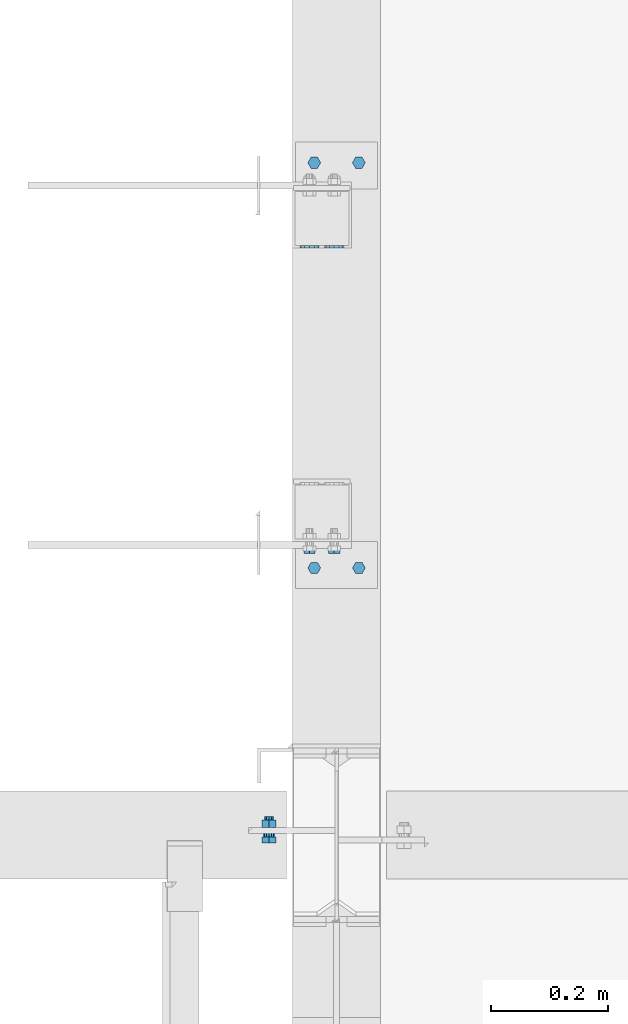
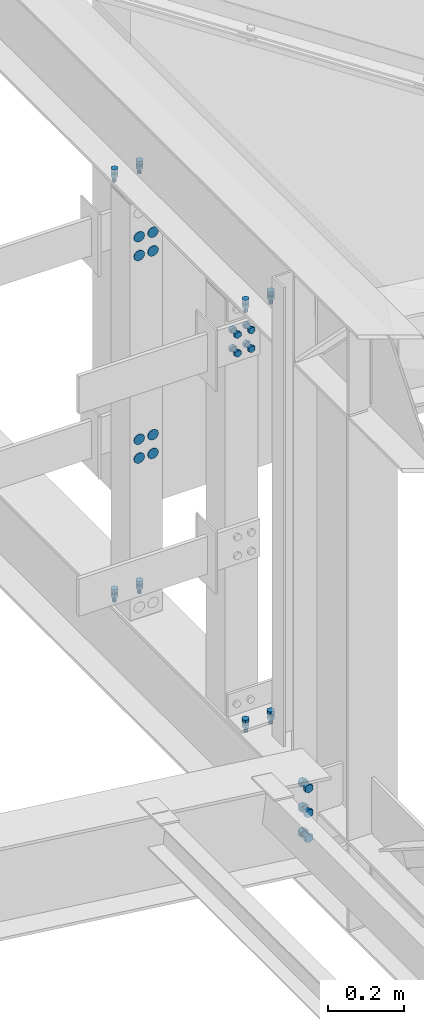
# One storey, part 372 of 3134: 8 mechanical fasteners, 7 elements without a shape of their own.
"""IFC2X3 building model written with IfcOpenShell, lengths in millimetres."""

from ifc_helpers import new_model, si_unit, frame, origin_with_axes, place, context, subcontext, project, spatial, faceted_brep, source, transform, mapped, material, type_object, element, aggregate, save


model = new_model("IFC2X3")

# Units and contexts
model_context = context("Model", 3, precision=1e-05, world=origin_with_axes())
body_context = subcontext(model_context, "Body", "Model", "MODEL_VIEW")
ifc_project = project(units=[si_unit("LENGTHUNIT", "METRE", prefix="MILLI"), si_unit("AREAUNIT", "SQUARE_METRE"), si_unit("VOLUMEUNIT", "CUBIC_METRE"), si_unit("MASSUNIT", "GRAM", prefix="KILO"), si_unit("TIMEUNIT", "SECOND"), si_unit("PLANEANGLEUNIT", "RADIAN"), si_unit("SOLIDANGLEUNIT", "STERADIAN"), si_unit("THERMODYNAMICTEMPERATUREUNIT", "DEGREE_CELSIUS"), si_unit("LUMINOUSINTENSITYUNIT", "LUMEN")], contexts=[model_context])

# Site, building, storey
site_placement = place(None, origin_with_axes())
site = spatial("IfcSite", under=ifc_project, at=site_placement, CompositionType="ELEMENT")
building_placement = place(site_placement, origin_with_axes())
building = spatial("IfcBuilding", under=site, at=building_placement, Name="Undefined", CompositionType="ELEMENT")
storey_placement = place(building_placement, origin_with_axes())
storey = spatial("IfcBuildingStorey", under=building, at=storey_placement, Name="Undefined", CompositionType="ELEMENT", Elevation=0.0)

# Assembly, mechanical fastener
assembly_1_placement = place(storey_placement, origin_with_axes())
assembly_1 = element("IfcElementAssembly", 1, at=assembly_1_placement, inside=storey, AssemblyPlace="NOTDEFINED", PredefinedType="RIGID_FRAME")
ifc_material = material(Name="8.8")
mechanical_fastener_type = type_object("IfcMechanicalFastenerType", Name="Bolt assembly")
shared_shape_1 = source(origin_with_axes(), body_context, "Body", "Brep", [
    faceted_brep([(10.9696551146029, -8.0, 0.0), (5.48482755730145, -8.0, 9.5), (-5.48482755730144, -8.0, 9.5), (-10.9696551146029, -8.0, 1.34339530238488e-15), (-5.48482755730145, -8.0, -9.5), (5.48482755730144, -8.0, -9.50000000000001), (5.48482755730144, 0.0, -9.50000000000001), (-5.48482755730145, 0.0, -9.5), (-10.9696551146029, 0.0, 1.34339530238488e-15), (-5.48482755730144, 0.0, 9.5), (5.48482755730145, 0.0, 9.5), (10.9696551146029, 0.0, 0.0), (6.0, 0.0, 0.0), (5.19615242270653, 0.0, 3.00000000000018), (2.99999999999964, 0.0, 5.19615242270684), (-6.21801588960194e-13, 0.0, 6.0), (-3.00000000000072, 0.0, 5.19615242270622), (-5.19615242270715, 0.0, 2.9999999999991), (-6.0, 0.0, -1.24360317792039e-12), (-5.19615242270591, 0.0, -3.00000000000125), (-2.99999999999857, 0.0, -5.19615242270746), (1.85874342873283e-12, 0.0, -6.0), (3.00000000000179, 0.0, -5.1961524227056), (5.19615242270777, 0.0, -2.99999999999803), (5.19615242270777, 35.0, -2.99999999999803), (3.00000000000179, 35.0, -5.1961524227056), (1.85874342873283e-12, 35.0, -6.0), (-2.99999999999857, 35.0, -5.19615242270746), (-5.19615242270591, 35.0, -3.00000000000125), (-6.0, 35.0, -1.24360317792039e-12), (-5.19615242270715, 35.0, 2.9999999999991), (-3.00000000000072, 35.0, 5.19615242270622), (-6.21801588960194e-13, 35.0, 6.0), (2.99999999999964, 35.0, 5.19615242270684), (5.19615242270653, 35.0, 3.00000000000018), (6.0, 35.0, 0.0), (10.9696551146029, 8.0, 0.0), (5.48482755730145, 8.0, 9.5), (-5.48482755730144, 8.0, 9.5), (-10.9696551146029, 8.0, 1.34339530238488e-15), (-5.48482755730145, 8.0, -9.5), (5.48482755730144, 8.0, -9.50000000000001), (5.48482755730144, 18.0, -9.50000000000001), (-5.48482755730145, 18.0, -9.5), (-10.9696551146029, 18.0, 1.34339530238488e-15), (-5.48482755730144, 18.0, 9.5), (5.48482755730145, 18.0, 9.5), (10.9696551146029, 18.0, 0.0)], [[[0, 1, 2, 3, 4, 5]], [[6, 7, 8, 9, 10, 11]], [[0, 11, 10, 1]], [[1, 10, 9, 2]], [[2, 9, 8, 3]], [[3, 8, 7, 4]], [[4, 7, 6, 5]], [[5, 6, 11, 0]], [[12, 13, 14, 15, 16, 17, 18, 19, 20, 21, 22, 23]], [[24, 25, 26, 27, 28, 29, 30, 31, 32, 33, 34, 35]], [[12, 35, 34, 13]], [[13, 34, 33, 14]], [[14, 33, 32, 15]], [[15, 32, 31, 16]], [[16, 31, 30, 17]], [[17, 30, 29, 18]], [[18, 29, 28, 19]], [[19, 28, 27, 20]], [[20, 27, 26, 21]], [[21, 26, 25, 22]], [[22, 25, 24, 23]], [[23, 24, 35, 12]], [[36, 37, 38, 39, 40, 41]], [[42, 43, 44, 45, 46, 47]], [[36, 47, 46, 37]], [[37, 46, 45, 38]], [[38, 45, 44, 39]], [[39, 44, 43, 40]], [[40, 43, 42, 41]], [[41, 42, 47, 36]]]),
    faceted_brep([(7.0, 0.0, 0.0), (6.06217782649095, 0.0, 3.50000000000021), (3.49999999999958, 0.0, 6.06217782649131), (-7.25435187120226e-13, 0.0, 7.0), (-3.50000000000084, 0.0, 6.06217782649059), (-6.06217782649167, 0.0, 3.49999999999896), (-7.0, 0.0, -1.45087037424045e-12), (-6.06217782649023, 0.0, -3.50000000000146), (-3.49999999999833, 0.0, -6.06217782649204), (2.1685340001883e-12, 0.0, -7.0), (3.50000000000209, 0.0, -6.06217782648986), (6.0621778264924, 0.0, -3.4999999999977), (6.0621778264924, 8.1, -3.4999999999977), (3.50000000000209, 8.1, -6.06217782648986), (2.1685340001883e-12, 8.1, -7.0), (-3.49999999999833, 8.1, -6.06217782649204), (-6.06217782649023, 8.1, -3.50000000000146), (-7.0, 8.1, -1.45087037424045e-12), (-6.06217782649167, 8.1, 3.49999999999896), (-3.50000000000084, 8.1, 6.06217782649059), (-7.25435187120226e-13, 8.1, 7.0), (3.49999999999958, 8.1, 6.06217782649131), (6.06217782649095, 8.1, 3.50000000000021), (7.0, 8.1, 0.0)], [[[0, 1, 2, 3, 4, 5, 6, 7, 8, 9, 10, 11]], [[12, 13, 14, 15, 16, 17, 18, 19, 20, 21, 22, 23]], [[0, 23, 22, 1]], [[1, 22, 21, 2]], [[2, 21, 20, 3]], [[3, 20, 19, 4]], [[4, 19, 18, 5]], [[5, 18, 17, 6]], [[6, 17, 16, 7]], [[7, 16, 15, 8]], [[8, 15, 14, 9]], [[9, 14, 13, 10]], [[10, 13, 12, 11]], [[11, 12, 23, 0]]]),
])
mechanical_fastener_1_placement = place(assembly_1_placement, frame((67512.0, 22505.0, 5593.0), z_axis=(0.0, 1.0, 0.0), x_axis=(1.0, 0.0, 0.0)))
mechanical_fastener_1 = element("IfcMechanicalFastener", 2, at=mechanical_fastener_1_placement, type_object=mechanical_fastener_type, material=ifc_material, Name="Bolt assembly", NominalDiameter=12.0, NominalLength=35.0, context=body_context, shape_type="MappedRepresentation", body=[
    mapped(shared_shape_1, transform((0.0, 0.0, 0.0))),
    mapped(shared_shape_1, transform((76.0, 0.0, 0.0))),
])
aggregate(assembly_1, [mechanical_fastener_1])

assembly_2_placement = place(storey_placement, origin_with_axes())
assembly_2 = element("IfcElementAssembly", 3, at=assembly_2_placement, inside=storey, AssemblyPlace="NOTDEFINED", PredefinedType="RIGID_FRAME")
mechanical_fastener_2_placement = place(assembly_2_placement, frame((67512.0, 23195.0, 5593.0), z_axis=(0.0, 1.0, 0.0), x_axis=(1.0, 0.0, 0.0)))
mechanical_fastener_2 = element("IfcMechanicalFastener", 4, at=mechanical_fastener_2_placement, type_object=mechanical_fastener_type, material=ifc_material, Name="Bolt assembly", NominalDiameter=12.0, NominalLength=35.0, context=body_context, shape_type="MappedRepresentation", body=[
    mapped(shared_shape_1, transform((0.0, 0.0, 0.0))),
    mapped(shared_shape_1, transform((76.0, 0.0, 0.0))),
])
aggregate(assembly_2, [mechanical_fastener_2])

# Assembly, mechanical fasteners
assembly_3_placement = place(storey_placement, origin_with_axes())
assembly_3 = element("IfcElementAssembly", 5, at=assembly_3_placement, inside=storey, AssemblyPlace="NOTDEFINED", PredefinedType="RIGID_FRAME")
shared_shape_2 = source(origin_with_axes(), body_context, "Body", "Brep", [
    faceted_brep([(16.5, 0.0, 0.0), (14.289419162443, 0.0, 8.25000000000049), (8.24999999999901, 0.0, 14.2894191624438), (-1.70995436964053e-12, 0.0, 16.5), (-8.25000000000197, 0.0, 14.2894191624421), (-14.2894191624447, 0.0, 8.24999999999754), (-16.5, 0.0, -3.41990873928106e-12), (-14.2894191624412, 0.0, -8.25000000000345), (-8.24999999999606, 0.0, -14.2894191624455), (5.11154442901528e-12, 0.0, -16.5), (8.25000000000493, 0.0, -14.2894191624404), (14.2894191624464, 0.0, -8.24999999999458), (14.2894191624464, 4.1, -8.24999999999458), (8.25000000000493, 4.1, -14.2894191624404), (5.11154442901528e-12, 4.1, -16.5), (-8.24999999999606, 4.1, -14.2894191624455), (-14.2894191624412, 4.1, -8.25000000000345), (-16.5, 4.1, -3.41990873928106e-12), (-14.2894191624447, 4.1, 8.24999999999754), (-8.25000000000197, 4.1, 14.2894191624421), (-1.70995436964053e-12, 4.1, 16.5), (8.24999999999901, 4.1, 14.2894191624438), (14.289419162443, 4.1, 8.25000000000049), (16.5, 4.1, 0.0)], [[[0, 1, 2, 3, 4, 5, 6, 7, 8, 9, 10, 11]], [[12, 13, 14, 15, 16, 17, 18, 19, 20, 21, 22, 23]], [[0, 23, 22, 1]], [[1, 22, 21, 2]], [[2, 21, 20, 3]], [[3, 20, 19, 4]], [[4, 19, 18, 5]], [[5, 18, 17, 6]], [[6, 17, 16, 7]], [[7, 16, 15, 8]], [[8, 15, 14, 9]], [[9, 14, 13, 10]], [[10, 13, 12, 11]], [[11, 12, 23, 0]]]),
])
mechanical_fastener_3_placement = place(assembly_3_placement, frame((67525.0, 23050.0, 5470.0), z_axis=(1.0, 0.0, 0.0), x_axis=(0.0, 0.0, -1.0)))
mechanical_fastener_3 = element("IfcMechanicalFastener", 6, at=mechanical_fastener_3_placement, type_object=mechanical_fastener_type, material=ifc_material, Name="Bolt assembly", NominalDiameter=30.0, NominalLength=4.0, context=body_context, shape_type="MappedRepresentation", body=[
    mapped(shared_shape_2, transform((0.0, 0.0, -21.0))),
    mapped(shared_shape_2, transform((60.0, 0.0, -21.0))),
    mapped(shared_shape_2, transform((0.0, 0.0, 21.0))),
    mapped(shared_shape_2, transform((60.0, 0.0, 21.0))),
])
mechanical_fastener_4_placement = place(assembly_3_placement, frame((67525.0, 23050.0, 4820.0), z_axis=(1.0, 0.0, 0.0), x_axis=(0.0, 0.0, -1.0)))
mechanical_fastener_4 = element("IfcMechanicalFastener", 7, at=mechanical_fastener_4_placement, type_object=mechanical_fastener_type, material=ifc_material, Name="Bolt assembly", NominalDiameter=30.0, NominalLength=4.0, context=body_context, shape_type="MappedRepresentation", body=[
    mapped(shared_shape_2, transform((0.0, 0.0, -21.0))),
    mapped(shared_shape_2, transform((60.0, 0.0, -21.0))),
    mapped(shared_shape_2, transform((0.0, 0.0, 21.0))),
    mapped(shared_shape_2, transform((60.0, 0.0, 21.0))),
])
aggregate(assembly_3, [mechanical_fastener_3, mechanical_fastener_4])

# Assembly, mechanical fastener
assembly_4_placement = place(storey_placement, origin_with_axes())
assembly_4 = element("IfcElementAssembly", 8, at=assembly_4_placement, inside=storey, AssemblyPlace="NOTDEFINED", PredefinedType="RIGID_FRAME")
shared_shape_3 = source(origin_with_axes(), body_context, "Body", "Brep", [
    faceted_brep([(10.9696551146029, -20.0, 0.0), (5.48482755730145, -20.0, 9.5), (-5.48482755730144, -20.0, 9.5), (-10.9696551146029, -20.0, 1.34339530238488e-15), (-5.48482755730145, -20.0, -9.5), (5.48482755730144, -20.0, -9.50000000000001), (5.48482755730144, -12.0, -9.50000000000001), (-5.48482755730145, -12.0, -9.5), (-10.9696551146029, -12.0, 1.34339530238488e-15), (-5.48482755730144, -12.0, 9.5), (5.48482755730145, -12.0, 9.5), (10.9696551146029, -12.0, 0.0), (6.0, -12.0, 0.0), (5.19615242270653, -12.0, 3.00000000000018), (2.99999999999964, -12.0, 5.19615242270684), (-6.21801588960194e-13, -12.0, 6.0), (-3.00000000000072, -12.0, 5.19615242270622), (-5.19615242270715, -12.0, 2.9999999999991), (-6.0, -12.0, -1.24360317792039e-12), (-5.19615242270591, -12.0, -3.00000000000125), (-2.99999999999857, -12.0, -5.19615242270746), (1.85874342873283e-12, -12.0, -6.0), (3.00000000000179, -12.0, -5.1961524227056), (5.19615242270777, -12.0, -2.99999999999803), (5.19615242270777, 18.0, -2.99999999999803), (3.00000000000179, 18.0, -5.1961524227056), (1.85874342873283e-12, 18.0, -6.0), (-2.99999999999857, 18.0, -5.19615242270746), (-5.19615242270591, 18.0, -3.00000000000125), (-6.0, 18.0, -1.24360317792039e-12), (-5.19615242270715, 18.0, 2.9999999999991), (-3.00000000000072, 18.0, 5.19615242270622), (-6.21801588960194e-13, 18.0, 6.0), (2.99999999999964, 18.0, 5.19615242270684), (5.19615242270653, 18.0, 3.00000000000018), (6.0, 18.0, 0.0), (10.9696551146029, 4.00000000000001, 0.0), (5.48482755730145, 4.00000000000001, 9.5), (-5.48482755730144, 4.00000000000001, 9.5), (-10.9696551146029, 4.00000000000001, 1.34339530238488e-15), (-5.48482755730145, 4.00000000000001, -9.5), (5.48482755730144, 4.00000000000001, -9.50000000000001), (5.48482755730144, 14.0, -9.50000000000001), (-5.48482755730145, 14.0, -9.5), (-10.9696551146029, 14.0, 1.34339530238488e-15), (-5.48482755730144, 14.0, 9.5), (5.48482755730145, 14.0, 9.5), (10.9696551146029, 14.0, 0.0)], [[[0, 1, 2, 3, 4, 5]], [[6, 7, 8, 9, 10, 11]], [[0, 11, 10, 1]], [[1, 10, 9, 2]], [[2, 9, 8, 3]], [[3, 8, 7, 4]], [[4, 7, 6, 5]], [[5, 6, 11, 0]], [[12, 13, 14, 15, 16, 17, 18, 19, 20, 21, 22, 23]], [[24, 25, 26, 27, 28, 29, 30, 31, 32, 33, 34, 35]], [[12, 35, 34, 13]], [[13, 34, 33, 14]], [[14, 33, 32, 15]], [[15, 32, 31, 16]], [[16, 31, 30, 17]], [[17, 30, 29, 18]], [[18, 29, 28, 19]], [[19, 28, 27, 20]], [[20, 27, 26, 21]], [[21, 26, 25, 22]], [[22, 25, 24, 23]], [[23, 24, 35, 12]], [[36, 37, 38, 39, 40, 41]], [[42, 43, 44, 45, 46, 47]], [[36, 47, 46, 37]], [[37, 46, 45, 38]], [[38, 45, 44, 39]], [[39, 44, 43, 40]], [[40, 43, 42, 41]], [[41, 42, 47, 36]]]),
    faceted_brep([(7.0, -11.9, 0.0), (6.06217782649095, -11.9, 3.50000000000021), (3.49999999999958, -11.9, 6.06217782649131), (-7.25435187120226e-13, -11.9, 7.0), (-3.50000000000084, -11.9, 6.06217782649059), (-6.06217782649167, -11.9, 3.49999999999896), (-7.0, -11.9, -1.45087037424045e-12), (-6.06217782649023, -11.9, -3.50000000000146), (-3.49999999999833, -11.9, -6.06217782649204), (2.1685340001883e-12, -11.9, -7.0), (3.50000000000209, -11.9, -6.06217782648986), (6.0621778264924, -11.9, -3.4999999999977), (6.0621778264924, 0.0999999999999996, -3.4999999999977), (3.50000000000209, 0.0999999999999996, -6.06217782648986), (2.1685340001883e-12, 0.0999999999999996, -7.0), (-3.49999999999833, 0.0999999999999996, -6.06217782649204), (-6.06217782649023, 0.0999999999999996, -3.50000000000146), (-7.0, 0.0999999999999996, -1.45087037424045e-12), (-6.06217782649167, 0.0999999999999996, 3.49999999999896), (-3.50000000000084, 0.0999999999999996, 6.06217782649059), (-7.25435187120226e-13, 0.0999999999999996, 7.0), (3.49999999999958, 0.0999999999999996, 6.06217782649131), (6.06217782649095, 0.0999999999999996, 3.50000000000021), (7.0, 0.0999999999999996, 0.0), (7.0, -0.1, 0.0), (6.06217782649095, -0.1, 3.50000000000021), (3.49999999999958, -0.1, 6.06217782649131), (-7.25435187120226e-13, -0.1, 7.0), (-3.50000000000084, -0.1, 6.06217782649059), (-6.06217782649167, -0.1, 3.49999999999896), (-7.0, -0.1, -1.45087037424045e-12), (-6.06217782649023, -0.1, -3.50000000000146), (-3.49999999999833, -0.1, -6.06217782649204), (2.1685340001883e-12, -0.1, -7.0), (3.50000000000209, -0.1, -6.06217782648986), (6.0621778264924, -0.1, -3.4999999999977), (6.0621778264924, 4.00000000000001, -3.4999999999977), (3.50000000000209, 4.00000000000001, -6.06217782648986), (2.1685340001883e-12, 4.00000000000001, -7.0), (-3.49999999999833, 4.00000000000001, -6.06217782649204), (-6.06217782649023, 4.00000000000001, -3.50000000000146), (-7.0, 4.00000000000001, -1.45087037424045e-12), (-6.06217782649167, 4.00000000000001, 3.49999999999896), (-3.50000000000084, 4.00000000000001, 6.06217782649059), (-7.25435187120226e-13, 4.00000000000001, 7.0), (3.49999999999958, 4.00000000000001, 6.06217782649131), (6.06217782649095, 4.00000000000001, 3.50000000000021), (7.0, 4.00000000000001, 0.0)], [[[0, 1, 2, 3, 4, 5, 6, 7, 8, 9, 10, 11]], [[12, 13, 14, 15, 16, 17, 18, 19, 20, 21, 22, 23]], [[0, 23, 22, 1]], [[1, 22, 21, 2]], [[2, 21, 20, 3]], [[3, 20, 19, 4]], [[4, 19, 18, 5]], [[5, 18, 17, 6]], [[6, 17, 16, 7]], [[7, 16, 15, 8]], [[8, 15, 14, 9]], [[9, 14, 13, 10]], [[10, 13, 12, 11]], [[11, 12, 23, 0]], [[24, 25, 26, 27, 28, 29, 30, 31, 32, 33, 34, 35]], [[36, 37, 38, 39, 40, 41, 42, 43, 44, 45, 46, 47]], [[24, 47, 46, 25]], [[25, 46, 45, 26]], [[26, 45, 44, 27]], [[27, 44, 43, 28]], [[28, 43, 42, 29]], [[29, 42, 41, 30]], [[30, 41, 40, 31]], [[31, 40, 39, 32]], [[32, 39, 38, 33]], [[33, 38, 37, 34]], [[34, 37, 36, 35]], [[35, 36, 47, 24]]]),
])
mechanical_fastener_5_placement = place(assembly_4_placement, frame((67525.0, 22550.0, 5470.0), z_axis=(1.0, 0.0, 0.0), x_axis=(0.0, 0.0, -1.0)))
mechanical_fastener_5 = element("IfcMechanicalFastener", 9, at=mechanical_fastener_5_placement, type_object=mechanical_fastener_type, material=ifc_material, Name="Bolt assembly", NominalDiameter=12.0, NominalLength=30.0, context=body_context, shape_type="MappedRepresentation", body=[
    mapped(shared_shape_3, transform((0.0, 0.0, -21.0))),
    mapped(shared_shape_3, transform((60.0, 0.0, -21.0))),
    mapped(shared_shape_3, transform((0.0, 0.0, 21.0))),
    mapped(shared_shape_3, transform((60.0, 0.0, 21.0))),
])
aggregate(assembly_4, [mechanical_fastener_5])

assembly_5_placement = place(storey_placement, origin_with_axes())
assembly_5 = element("IfcElementAssembly", 10, at=assembly_5_placement, inside=storey, AssemblyPlace="NOTDEFINED", PredefinedType="RIGID_FRAME")
shared_shape_4 = source(origin_with_axes(), body_context, "Body", "Brep", [
    faceted_brep([(10.9696551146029, -16.0, 0.0), (5.48482755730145, -16.0, 9.5), (-5.48482755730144, -16.0, 9.5), (-10.9696551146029, -16.0, 1.34339530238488e-15), (-5.48482755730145, -16.0, -9.5), (5.48482755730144, -16.0, -9.50000000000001), (5.48482755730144, -8.0, -9.50000000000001), (-5.48482755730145, -8.0, -9.5), (-10.9696551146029, -8.0, 1.34339530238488e-15), (-5.48482755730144, -8.0, 9.5), (5.48482755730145, -8.0, 9.5), (10.9696551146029, -8.0, 0.0), (6.0, -8.0, 0.0), (5.19615242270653, -8.0, 3.00000000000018), (2.99999999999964, -8.0, 5.19615242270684), (-6.21801588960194e-13, -8.0, 6.0), (-3.00000000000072, -8.0, 5.19615242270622), (-5.19615242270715, -8.0, 2.9999999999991), (-6.0, -8.0, -1.24360317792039e-12), (-5.19615242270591, -8.0, -3.00000000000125), (-2.99999999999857, -8.0, -5.19615242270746), (1.85874342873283e-12, -8.0, -6.0), (3.00000000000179, -8.0, -5.1961524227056), (5.19615242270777, -8.0, -2.99999999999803), (5.19615242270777, 27.0, -2.99999999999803), (3.00000000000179, 27.0, -5.1961524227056), (1.85874342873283e-12, 27.0, -6.0), (-2.99999999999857, 27.0, -5.19615242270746), (-5.19615242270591, 27.0, -3.00000000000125), (-6.0, 27.0, -1.24360317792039e-12), (-5.19615242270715, 27.0, 2.9999999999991), (-3.00000000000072, 27.0, 5.19615242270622), (-6.21801588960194e-13, 27.0, 6.0), (2.99999999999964, 27.0, 5.19615242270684), (5.19615242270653, 27.0, 3.00000000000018), (6.0, 27.0, 0.0), (10.9696551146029, 0.0, 0.0), (5.48482755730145, 0.0, 9.5), (-5.48482755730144, 0.0, 9.5), (-10.9696551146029, 0.0, 1.34339530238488e-15), (-5.48482755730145, 0.0, -9.5), (5.48482755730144, 0.0, -9.50000000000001), (5.48482755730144, 10.0, -9.50000000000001), (-5.48482755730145, 10.0, -9.5), (-10.9696551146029, 10.0, 1.34339530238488e-15), (-5.48482755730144, 10.0, 9.5), (5.48482755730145, 10.0, 9.5), (10.9696551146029, 10.0, 0.0)], [[[0, 1, 2, 3, 4, 5]], [[6, 7, 8, 9, 10, 11]], [[0, 11, 10, 1]], [[1, 10, 9, 2]], [[2, 9, 8, 3]], [[3, 8, 7, 4]], [[4, 7, 6, 5]], [[5, 6, 11, 0]], [[12, 13, 14, 15, 16, 17, 18, 19, 20, 21, 22, 23]], [[24, 25, 26, 27, 28, 29, 30, 31, 32, 33, 34, 35]], [[12, 35, 34, 13]], [[13, 34, 33, 14]], [[14, 33, 32, 15]], [[15, 32, 31, 16]], [[16, 31, 30, 17]], [[17, 30, 29, 18]], [[18, 29, 28, 19]], [[19, 28, 27, 20]], [[20, 27, 26, 21]], [[21, 26, 25, 22]], [[22, 25, 24, 23]], [[23, 24, 35, 12]], [[36, 37, 38, 39, 40, 41]], [[42, 43, 44, 45, 46, 47]], [[36, 47, 46, 37]], [[37, 46, 45, 38]], [[38, 45, 44, 39]], [[39, 44, 43, 40]], [[40, 43, 42, 41]], [[41, 42, 47, 36]]]),
    faceted_brep([(7.0, -8.0, 0.0), (6.06217782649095, -8.0, 3.50000000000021), (3.49999999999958, -8.0, 6.06217782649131), (-7.25435187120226e-13, -8.0, 7.0), (-3.50000000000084, -8.0, 6.06217782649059), (-6.06217782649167, -8.0, 3.49999999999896), (-7.0, -8.0, -1.45087037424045e-12), (-6.06217782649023, -8.0, -3.50000000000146), (-3.49999999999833, -8.0, -6.06217782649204), (2.1685340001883e-12, -8.0, -7.0), (3.50000000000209, -8.0, -6.06217782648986), (6.0621778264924, -8.0, -3.4999999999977), (6.0621778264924, 0.0999999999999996, -3.4999999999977), (3.50000000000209, 0.0999999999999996, -6.06217782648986), (2.1685340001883e-12, 0.0999999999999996, -7.0), (-3.49999999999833, 0.0999999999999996, -6.06217782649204), (-6.06217782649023, 0.0999999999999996, -3.50000000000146), (-7.0, 0.0999999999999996, -1.45087037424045e-12), (-6.06217782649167, 0.0999999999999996, 3.49999999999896), (-3.50000000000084, 0.0999999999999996, 6.06217782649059), (-7.25435187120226e-13, 0.0999999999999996, 7.0), (3.49999999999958, 0.0999999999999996, 6.06217782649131), (6.06217782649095, 0.0999999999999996, 3.50000000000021), (7.0, 0.0999999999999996, 0.0)], [[[0, 1, 2, 3, 4, 5, 6, 7, 8, 9, 10, 11]], [[12, 13, 14, 15, 16, 17, 18, 19, 20, 21, 22, 23]], [[0, 23, 22, 1]], [[1, 22, 21, 2]], [[2, 21, 20, 3]], [[3, 20, 19, 4]], [[4, 19, 18, 5]], [[5, 18, 17, 6]], [[6, 17, 16, 7]], [[7, 16, 15, 8]], [[8, 15, 14, 9]], [[9, 14, 13, 10]], [[10, 13, 12, 11]], [[11, 12, 23, 0]]]),
])
mechanical_fastener_6_placement = place(assembly_5_placement, frame((67512.0, 22505.0, 4237.0), z_axis=(0.0, 1.0, 0.0), x_axis=(1.0, 0.0, 0.0)))
mechanical_fastener_6 = element("IfcMechanicalFastener", 11, at=mechanical_fastener_6_placement, type_object=mechanical_fastener_type, material=ifc_material, Name="Bolt assembly", NominalDiameter=12.0, NominalLength=35.0, context=body_context, shape_type="MappedRepresentation", body=[
    mapped(shared_shape_4, transform((0.0, 0.0, 0.0))),
    mapped(shared_shape_4, transform((76.0, 0.0, 0.0))),
])
aggregate(assembly_5, [mechanical_fastener_6])

assembly_6_placement = place(storey_placement, origin_with_axes())
assembly_6 = element("IfcElementAssembly", 12, at=assembly_6_placement, inside=storey, AssemblyPlace="NOTDEFINED", PredefinedType="RIGID_FRAME")
mechanical_fastener_7_placement = place(assembly_6_placement, frame((67512.0, 23195.0, 4237.0), z_axis=(0.0, 1.0, 0.0), x_axis=(1.0, 0.0, 0.0)))
mechanical_fastener_7 = element("IfcMechanicalFastener", 13, at=mechanical_fastener_7_placement, type_object=mechanical_fastener_type, material=ifc_material, Name="Bolt assembly", NominalDiameter=12.0, NominalLength=35.0, context=body_context, shape_type="MappedRepresentation", body=[
    mapped(shared_shape_4, transform((0.0, 0.0, 0.0))),
    mapped(shared_shape_4, transform((76.0, 0.0, 0.0))),
])
aggregate(assembly_6, [mechanical_fastener_7])

assembly_7_placement = place(storey_placement, origin_with_axes())
assembly_7 = element("IfcElementAssembly", 14, at=assembly_7_placement, inside=storey, Name="300", AssemblyPlace="NOTDEFINED", PredefinedType="RIGID_FRAME")
shared_shape_5 = source(origin_with_axes(), body_context, "Body", "Brep", [
    faceted_brep([(13.856406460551, -13.0499999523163, 0.0), (6.92820323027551, -13.0499999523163, 12.0), (-6.92820323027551, -13.0499999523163, 12.0), (-13.856406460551, -13.0499999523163, 1.69692038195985e-15), (-6.92820323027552, -13.0499999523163, -12.0), (6.9282032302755, -13.0499999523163, -12.0), (6.9282032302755, -3.04999995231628, -12.0), (-6.92820323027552, -3.04999995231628, -12.0), (-13.856406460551, -3.04999995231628, 1.69692038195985e-15), (-6.92820323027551, -3.04999995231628, 12.0), (6.92820323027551, -3.04999995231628, 12.0), (13.856406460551, -3.04999995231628, 0.0), (8.0, -3.04999995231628, 0.0), (6.92820323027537, -3.04999995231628, 4.00000000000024), (3.99999999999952, -3.04999995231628, 6.92820323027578), (-8.29068785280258e-13, -3.04999995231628, 8.0), (-4.00000000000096, -3.04999995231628, 6.92820323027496), (-6.9282032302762, -3.04999995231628, 3.99999999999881), (-8.0, -3.04999995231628, -1.65813757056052e-12), (-6.92820323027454, -3.04999995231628, -4.00000000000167), (-3.99999999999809, -3.04999995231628, -6.92820323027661), (2.47832457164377e-12, -3.04999995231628, -8.0), (4.00000000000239, -3.04999995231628, -6.92820323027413), (6.92820323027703, -3.04999995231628, -3.99999999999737), (6.92820323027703, 31.9500000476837, -3.99999999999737), (4.00000000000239, 31.9500000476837, -6.92820323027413), (2.47832457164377e-12, 31.9500000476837, -8.0), (-3.99999999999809, 31.9500000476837, -6.92820323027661), (-6.92820323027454, 31.9500000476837, -4.00000000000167), (-8.0, 31.9500000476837, -1.65813757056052e-12), (-6.9282032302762, 31.9500000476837, 3.99999999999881), (-4.00000000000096, 31.9500000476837, 6.92820323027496), (-8.29068785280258e-13, 31.9500000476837, 8.0), (3.99999999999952, 31.9500000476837, 6.92820323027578), (6.92820323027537, 31.9500000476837, 4.00000000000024), (8.0, 31.9500000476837, 0.0), (13.856406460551, 13.0500000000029, 0.0), (6.92820323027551, 13.0500000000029, 12.0), (-6.92820323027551, 13.0500000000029, 12.0), (-13.856406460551, 13.0500000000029, 1.69692038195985e-15), (-6.92820323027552, 13.0500000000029, -12.0), (6.9282032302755, 13.0500000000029, -12.0), (6.9282032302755, 26.0500000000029, -12.0), (-6.92820323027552, 26.0500000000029, -12.0), (-13.856406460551, 26.0500000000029, 1.69692038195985e-15), (-6.92820323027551, 26.0500000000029, 12.0), (6.92820323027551, 26.0500000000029, 12.0), (13.856406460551, 26.0500000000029, 0.0)], [[[0, 1, 2, 3, 4, 5]], [[6, 7, 8, 9, 10, 11]], [[0, 11, 10, 1]], [[1, 10, 9, 2]], [[2, 9, 8, 3]], [[3, 8, 7, 4]], [[4, 7, 6, 5]], [[5, 6, 11, 0]], [[12, 13, 14, 15, 16, 17, 18, 19, 20, 21, 22, 23]], [[24, 25, 26, 27, 28, 29, 30, 31, 32, 33, 34, 35]], [[12, 35, 34, 13]], [[13, 34, 33, 14]], [[14, 33, 32, 15]], [[15, 32, 31, 16]], [[16, 31, 30, 17]], [[17, 30, 29, 18]], [[18, 29, 28, 19]], [[19, 28, 27, 20]], [[20, 27, 26, 21]], [[21, 26, 25, 22]], [[22, 25, 24, 23]], [[23, 24, 35, 12]], [[36, 37, 38, 39, 40, 41]], [[42, 43, 44, 45, 46, 47]], [[36, 47, 46, 37]], [[37, 46, 45, 38]], [[38, 45, 44, 39]], [[39, 44, 43, 40]], [[40, 43, 42, 41]], [[41, 42, 47, 36]]]),
    faceted_brep([(9.0, 2.95000000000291, 0.0), (7.79422863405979, 2.95000000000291, 4.50000000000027), (4.49999999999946, 2.95000000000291, 7.79422863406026), (-9.3270238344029e-13, 2.95000000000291, 9.0), (-4.50000000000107, 2.95000000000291, 7.79422863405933), (-7.79422863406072, 2.95000000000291, 4.49999999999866), (-9.0, 2.95000000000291, -1.86540476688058e-12), (-7.79422863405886, 2.95000000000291, -4.50000000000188), (-4.49999999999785, 2.95000000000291, -7.79422863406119), (2.78811514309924e-12, 2.95000000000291, -9.0), (4.50000000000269, 2.95000000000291, -7.7942286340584), (7.79422863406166, 2.95000000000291, -4.49999999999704), (7.79422863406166, 13.0500000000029, -4.49999999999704), (4.50000000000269, 13.0500000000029, -7.7942286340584), (2.78811514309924e-12, 13.0500000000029, -9.0), (-4.49999999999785, 13.0500000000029, -7.79422863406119), (-7.79422863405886, 13.0500000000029, -4.50000000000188), (-9.0, 13.0500000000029, -1.86540476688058e-12), (-7.79422863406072, 13.0500000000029, 4.49999999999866), (-4.50000000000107, 13.0500000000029, 7.79422863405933), (-9.3270238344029e-13, 13.0500000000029, 9.0), (4.49999999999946, 13.0500000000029, 7.79422863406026), (7.79422863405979, 13.0500000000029, 4.50000000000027), (9.0, 13.0500000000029, 0.0), (9.0, -2.94999995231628, 0.0), (7.79422863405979, -2.94999995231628, 4.50000000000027), (4.49999999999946, -2.94999995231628, 7.79422863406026), (-9.3270238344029e-13, -2.94999995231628, 9.0), (-4.50000000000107, -2.94999995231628, 7.79422863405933), (-7.79422863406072, -2.94999995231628, 4.49999999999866), (-9.0, -2.94999995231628, -1.86540476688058e-12), (-7.79422863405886, -2.94999995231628, -4.50000000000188), (-4.49999999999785, -2.94999995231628, -7.79422863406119), (2.78811514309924e-12, -2.94999995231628, -9.0), (4.50000000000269, -2.94999995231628, -7.7942286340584), (7.79422863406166, -2.94999995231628, -4.49999999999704), (7.79422863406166, 3.14999995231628, -4.49999999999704), (4.50000000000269, 3.14999995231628, -7.7942286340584), (2.78811514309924e-12, 3.14999995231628, -9.0), (-4.49999999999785, 3.14999995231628, -7.79422863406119), (-7.79422863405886, 3.14999995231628, -4.50000000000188), (-9.0, 3.14999995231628, -1.86540476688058e-12), (-7.79422863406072, 3.14999995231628, 4.49999999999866), (-4.50000000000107, 3.14999995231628, 7.79422863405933), (-9.3270238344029e-13, 3.14999995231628, 9.0), (4.49999999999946, 3.14999995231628, 7.79422863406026), (7.79422863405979, 3.14999995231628, 4.50000000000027), (9.0, 3.14999995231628, 0.0)], [[[0, 1, 2, 3, 4, 5, 6, 7, 8, 9, 10, 11]], [[12, 13, 14, 15, 16, 17, 18, 19, 20, 21, 22, 23]], [[0, 23, 22, 1]], [[1, 22, 21, 2]], [[2, 21, 20, 3]], [[3, 20, 19, 4]], [[4, 19, 18, 5]], [[5, 18, 17, 6]], [[6, 17, 16, 7]], [[7, 16, 15, 8]], [[8, 15, 14, 9]], [[9, 14, 13, 10]], [[10, 13, 12, 11]], [[11, 12, 23, 0]], [[24, 25, 26, 27, 28, 29, 30, 31, 32, 33, 34, 35]], [[36, 37, 38, 39, 40, 41, 42, 43, 44, 45, 46, 47]], [[24, 47, 46, 25]], [[25, 46, 45, 26]], [[26, 45, 44, 27]], [[27, 44, 43, 28]], [[28, 43, 42, 29]], [[29, 42, 41, 30]], [[30, 41, 40, 31]], [[31, 40, 39, 32]], [[32, 39, 38, 33]], [[33, 38, 37, 34]], [[34, 37, 36, 35]], [[35, 36, 47, 24]]]),
])
mechanical_fastener_8_placement = place(assembly_7_placement, frame((67435.0, 22050.0, 4337.44269270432), z_axis=(1.0, 0.0, 0.0), x_axis=(0.0, 0.0, -1.0)))
mechanical_fastener_8 = element("IfcMechanicalFastener", 15, at=mechanical_fastener_8_placement, type_object=mechanical_fastener_type, material=ifc_material, Name="Bolt assembly", NominalDiameter=16.0, NominalLength=35.0, context=body_context, shape_type="MappedRepresentation", body=[
    mapped(shared_shape_5, transform((0.0, 0.0, 0.0))),
    mapped(shared_shape_5, transform((80.0, 0.0, 0.0))),
    mapped(shared_shape_5, transform((160.0, 0.0, 0.0))),
])
aggregate(assembly_7, [mechanical_fastener_8])

save(model, "model.ifc")
